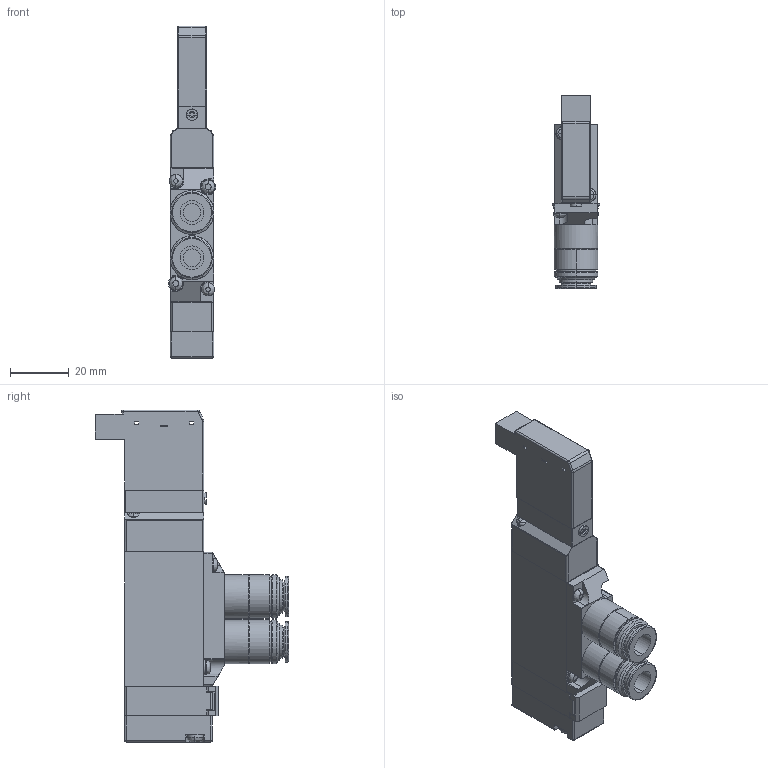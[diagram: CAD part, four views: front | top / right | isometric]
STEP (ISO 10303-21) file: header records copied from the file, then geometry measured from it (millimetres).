
FILE_DESCRIPTION( (''), '2;1');
FILE_NAME ('CVICAD02.3360.F15T1-FJ_21521.stp','2021-07-12T19:12:59',(''),(''),'spGate 12.6.6','','');
FILE_SCHEMA (('AUTOMOTIVE_DESIGN'));
Length unit declared in the file: millimetre
Products named in the file (8): Assembly; CVICAD02-prt0; CVICAD02-prt1; CVICAD02-prt2; CVICAD02-prt3; CVICAD02-prt4; CVICAD02-prt5; CVICAD02-prt6
Assembly tree (7 placements, depth 2):
  Assembly
    CVICAD02-prt0
    CVICAD02-prt1
    CVICAD02-prt2
    CVICAD02-prt3
    CVICAD02-prt4
    CVICAD02-prt5
    CVICAD02-prt6
Bounding box: 16.2 x 66 x 113.5 mm (x, y, z)
Volume: 51641.4 mm3; surface area: 20865.6 mm2
Topology: 7 solids, 7 shells, 411 faces, 1024 edges, 645 vertices
Faces by surface type: plane 204, cylinder 140, bspline 62, sphere 5
Entity records: 21144 total; most frequent: CARTESIAN_POINT 3343, ORIENTED_EDGE 2030, DIRECTION 1873, COLOUR_RGB 1433, PRESENTATION_STYLE_ASSIGNMENT 1433, STYLED_ITEM 1433, EDGE_CURVE 1015, DRAUGHTING_PRE_DEFINED_CURVE_FONT 1015
